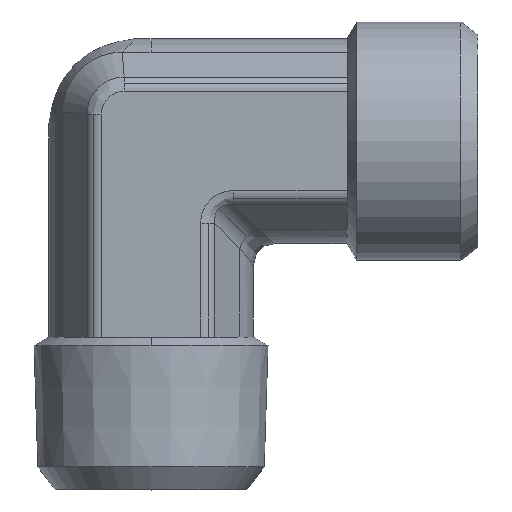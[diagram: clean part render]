
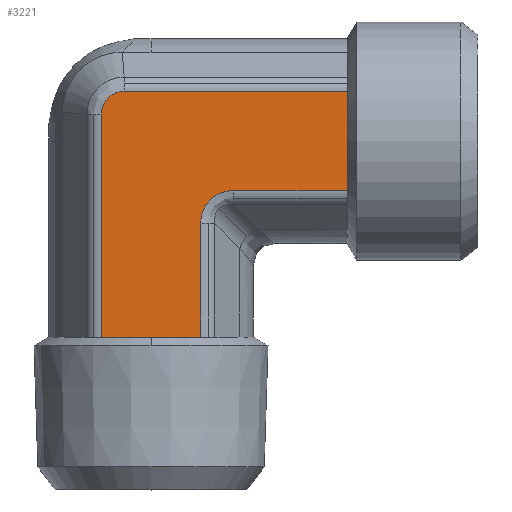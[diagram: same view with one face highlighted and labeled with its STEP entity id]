
A CAD part, top view. The second image highlights one B-rep face of the part: STEP entity #3221.
In plain terms, the highlighted planar face has unit normal (0, 0, 1) as drawn and (0, -1, 0) by its records, which use the part's own axes.
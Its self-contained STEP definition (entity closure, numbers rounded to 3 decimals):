
#361=CARTESIAN_POINT('',(3.092,-9.4,4.561));
#362=VERTEX_POINT('',#361);
#370=CARTESIAN_POINT('',(13.5,-9.4,4.561));
#371=VERTEX_POINT('',#370);
#372=CARTESIAN_POINT('',(3.092,-9.4,4.561));
#373=DIRECTION('',(1.0,0.0,0.0));
#374=VECTOR('',#373,10.408);
#375=LINE('',#372,#374);
#376=EDGE_CURVE('',#362,#371,#375,.T.);
#485=CARTESIAN_POINT('',(-9.061,-9.4,-2.461));
#486=VERTEX_POINT('',#485);
#494=CARTESIAN_POINT('',(-9.061,-9.4,18.0));
#495=VERTEX_POINT('',#494);
#496=CARTESIAN_POINT('',(-9.061,-9.4,-2.461));
#497=DIRECTION('',(0.0,0.0,1.0));
#498=VECTOR('',#497,20.461);
#499=LINE('',#496,#498);
#500=EDGE_CURVE('',#486,#495,#499,.T.);
#753=CARTESIAN_POINT('',(13.5,-9.4,0.));
#754=VERTEX_POINT('',#753);
#2119=CARTESIAN_POINT('',(-4.5,-9.4,18.0));
#2120=VERTEX_POINT('',#2119);
#2239=CARTESIAN_POINT('',(-4.5,-9.4,18.0));
#2240=DIRECTION('',(-1.0,0.0,0.0));
#2241=VECTOR('',#2240,4.561);
#2242=LINE('',#2239,#2241);
#2243=EDGE_CURVE('',#2120,#495,#2242,.T.);
#2316=CARTESIAN_POINT('',(0.061,-9.4,18.0));
#2317=VERTEX_POINT('',#2316);
#2318=CARTESIAN_POINT('',(0.061,-9.4,18.0));
#2319=DIRECTION('',(-1.0,0.0,0.0));
#2320=VECTOR('',#2319,4.561);
#2321=LINE('',#2318,#2320);
#2322=EDGE_CURVE('',#2317,#2120,#2321,.T.);
#2414=CARTESIAN_POINT('',(13.5,-9.4,-4.561));
#2415=VERTEX_POINT('',#2414);
#2416=CARTESIAN_POINT('',(13.5,-9.4,-4.561));
#2417=DIRECTION('',(0.0,0.0,1.0));
#2418=VECTOR('',#2417,4.561);
#2419=LINE('',#2416,#2418);
#2420=EDGE_CURVE('',#2415,#754,#2419,.T.);
#2461=CARTESIAN_POINT('',(13.5,-9.4,0.));
#2462=DIRECTION('',(0.0,0.0,1.0));
#2463=VECTOR('',#2462,4.561);
#2464=LINE('',#2461,#2463);
#2465=EDGE_CURVE('',#754,#371,#2464,.T.);
#2905=CARTESIAN_POINT('',(-6.961,-9.4,-4.561));
#2906=VERTEX_POINT('',#2905);
#2914=CARTESIAN_POINT('',(-9.061,-9.4,-2.461));
#2915=CARTESIAN_POINT('',(-9.061,-9.4,-2.598));
#2916=CARTESIAN_POINT('',(-9.048,-9.4,-2.736));
#2917=CARTESIAN_POINT('',(-8.977,-9.4,-3.088));
#2918=CARTESIAN_POINT('',(-8.901,-9.4,-3.296));
#2919=CARTESIAN_POINT('',(-8.62,-9.4,-3.796));
#2920=CARTESIAN_POINT('',(-8.37,-9.4,-4.058));
#2921=CARTESIAN_POINT('',(-7.737,-9.4,-4.451));
#2922=CARTESIAN_POINT('',(-7.349,-9.4,-4.561));
#2923=CARTESIAN_POINT('',(-6.961,-9.4,-4.561));
#2924=B_SPLINE_CURVE_WITH_KNOTS('',3,(#2914,#2915,#2916,#2917,#2918,#2919,#2920,#2921,#2922,#2923),.UNSPECIFIED.,.F.,.U.,(4,2,2,2,4),(-3.281,-2.871,-2.215,-1.165,0.0),.UNSPECIFIED.);
#2925=EDGE_CURVE('',#2906,#486,#2924,.F.);
#2952=CARTESIAN_POINT('',(13.5,-9.4,-4.561));
#2953=DIRECTION('',(-1.0,0.0,0.0));
#2954=VECTOR('',#2953,20.461);
#2955=LINE('',#2952,#2954);
#2956=EDGE_CURVE('',#2415,#2906,#2955,.T.);
#3088=CARTESIAN_POINT('',(0.061,-9.4,7.592));
#3089=VERTEX_POINT('',#3088);
#3090=CARTESIAN_POINT('',(0.061,-9.4,18.0));
#3091=DIRECTION('',(0.0,0.0,-1.0));
#3092=VECTOR('',#3091,10.408);
#3093=LINE('',#3090,#3092);
#3094=EDGE_CURVE('',#2317,#3089,#3093,.T.);
#3177=CARTESIAN_POINT('',(4.103,-9.4,8.603));
#3178=DIRECTION('',(0.,-1.0,0.));
#3179=DIRECTION('',(-0.707,0.,-0.707));
#3180=AXIS2_PLACEMENT_3D('',#3177,#3178,#3179);
#3181=ELLIPSE('',#3180,4.518,3.5);
#3182=EDGE_CURVE('',#3089,#362,#3181,.T.);
#3204=CARTESIAN_POINT('',(-4.5,-9.4,-3.175));
#3205=DIRECTION('',(0.0,-1.0,0.0));
#3206=DIRECTION('',(0.0,0.0,-1.0));
#3207=AXIS2_PLACEMENT_3D('',#3204,#3205,#3206);
#3208=PLANE('',#3207);
#3209=ORIENTED_EDGE('',*,*,#2956,.F.);
#3210=ORIENTED_EDGE('',*,*,#2420,.T.);
#3211=ORIENTED_EDGE('',*,*,#2465,.T.);
#3212=ORIENTED_EDGE('',*,*,#376,.F.);
#3213=ORIENTED_EDGE('',*,*,#3182,.F.);
#3214=ORIENTED_EDGE('',*,*,#3094,.F.);
#3215=ORIENTED_EDGE('',*,*,#2322,.T.);
#3216=ORIENTED_EDGE('',*,*,#2243,.T.);
#3217=ORIENTED_EDGE('',*,*,#500,.F.);
#3218=ORIENTED_EDGE('',*,*,#2925,.F.);
#3219=EDGE_LOOP('',(#3209,#3210,#3211,#3212,#3213,#3214,#3215,#3216,#3217,#3218));
#3220=FACE_OUTER_BOUND('',#3219,.T.);
#3221=ADVANCED_FACE('',(#3220),#3208,.T.);
